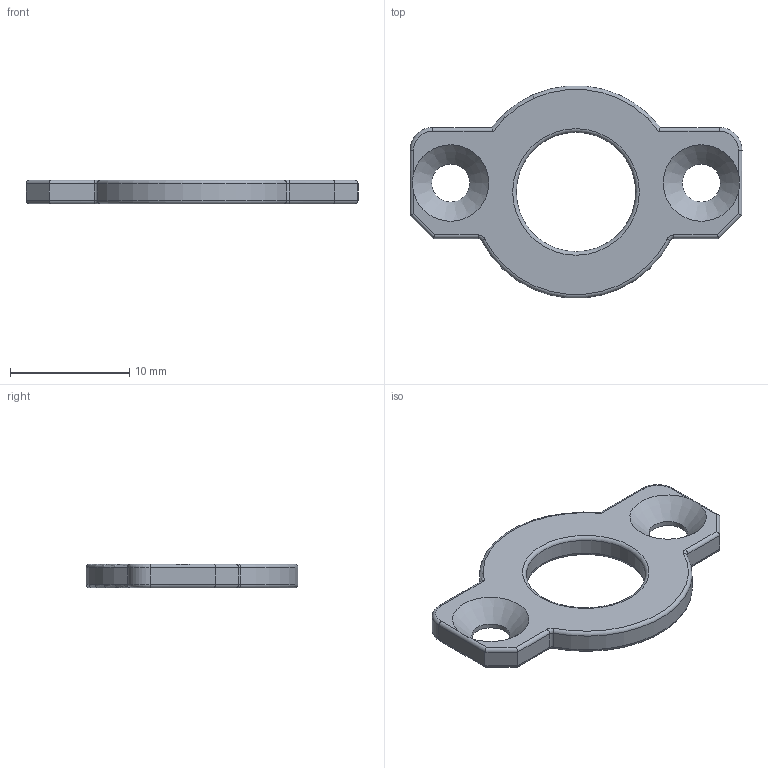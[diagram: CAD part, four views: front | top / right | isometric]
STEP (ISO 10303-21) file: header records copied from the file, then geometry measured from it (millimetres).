
FILE_DESCRIPTION(/* description */ (''),/* implementation_level */ '2;1');
FILE_NAME(/* name */ '\\7800MBZ-PC\Maschinenbau-Projekte\Prusa_Mini_CAD\Linearlager\Linearlager_Sinterbuchsen-8_14_20-Mini-Y-Achse\Export_Step\Sicherung.stp',/* time_stamp */ '2023-04-06T13:02:09+02:00',/* author */ ('KHG'),/* organization */ (''),/* preprocessor_version */ 'ST-DEVELOPER v18.1',/* originating_system */ 'Autodesk Inventor 2020',/* authorisation */ '');
FILE_SCHEMA (('AUTOMOTIVE_DESIGN { 1 0 10303 214 3 1 1 }'));
Length unit declared in the file: millimetre
Products named in the file (1): Sicherung
Bounding box: 27.8 x 17.74 x 2 mm (x, y, z)
Volume: 452.7 mm3; surface area: 718.3 mm2
Topology: 1 solids, 1 shells, 53 faces, 124 edges, 72 vertices
Faces by surface type: cylinder 26, torus 14, plane 11, cone 2
Full cylindrical faces by diameter (mm): 3.2 x2, 10 x1, 15 x1
Entity records: 1617 total; most frequent: CARTESIAN_POINT 323, DIRECTION 288, ORIENTED_EDGE 248, EDGE_CURVE 124, AXIS2_PLACEMENT_3D 117, VERTEX_POINT 72, EDGE_LOOP 58, CIRCLE 55
